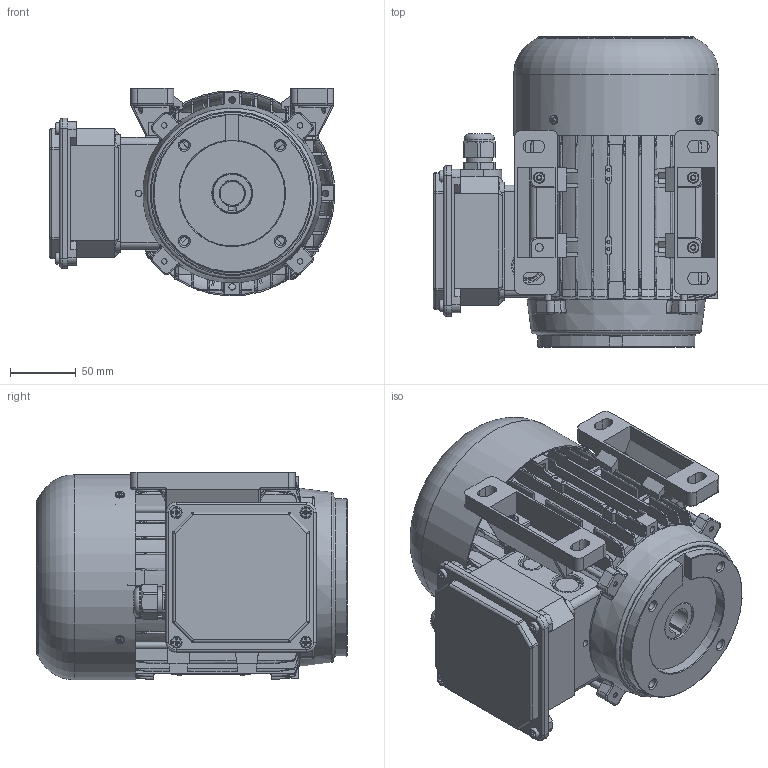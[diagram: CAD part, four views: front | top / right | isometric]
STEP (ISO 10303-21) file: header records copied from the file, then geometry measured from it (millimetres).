
FILE_DESCRIPTION(/* description */ ('Unknown'),/* implementation_level */ '2;1');
FILE_NAME(/* name */ 'W:\Tecnico\Archivio\Dimensioni Pompe\3D Export\Motori\MRE80-05DX.stp',/* time_stamp */ '2021-04-07T12:26:54+02:00',/* author */ ('marcop'),/* organization */ ('Unknown'),/* preprocessor_version */ 'ST-DEVELOPER v17',/* originating_system */ 'Autodesk Inventor 2018',/* authorisation */ ' ');
FILE_SCHEMA (('AUTOMOTIVE_DESIGN { 1 0 10303 214 3 1 1 }'));
Products named in the file (1): 1182 M80 ATT.80-(ME80 05 DX)
Bounding box: 216.89 x 235.5 x 157.89 mm (x, y, z)
Volume: 1318166.5 mm3; surface area: 637821 mm2
Topology: 1 solids, 24 shells, 3100 faces, 8911 edges, 5940 vertices
Faces by surface type: plane 1829, cylinder 642, cone 314, torus 175, bspline 130, sphere 10
Full cylindrical faces by diameter (mm): 2.3 x8, 2.5 x2, 3 x2, 3.1 x1, 3.2 x4, 3.242 x1, 3.5 x4, 4.134 x8, 4.2 x4, 5 x23, 5.5 x8, 5.8 x4, 6 x12, 6.6 x4, 6.8 x4, 8 x2, 8.5 x3, 14 x1, 15 x1, 17 x1, 18.3 x2, 18.5 x1, 19.2 x1, 19.5 x1, 19.8 x1, 19.9 x1, 20 x6, 21.5 x1, 23 x3, 24.834 x2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
Entity records: 116894 total; most frequent: CARTESIAN_POINT 32000, ORIENTED_EDGE 17788, DIRECTION 16602, EDGE_CURVE 8894, VERTEX_POINT 5940, AXIS2_PLACEMENT_3D 5712, LINE 5178, VECTOR 5178
